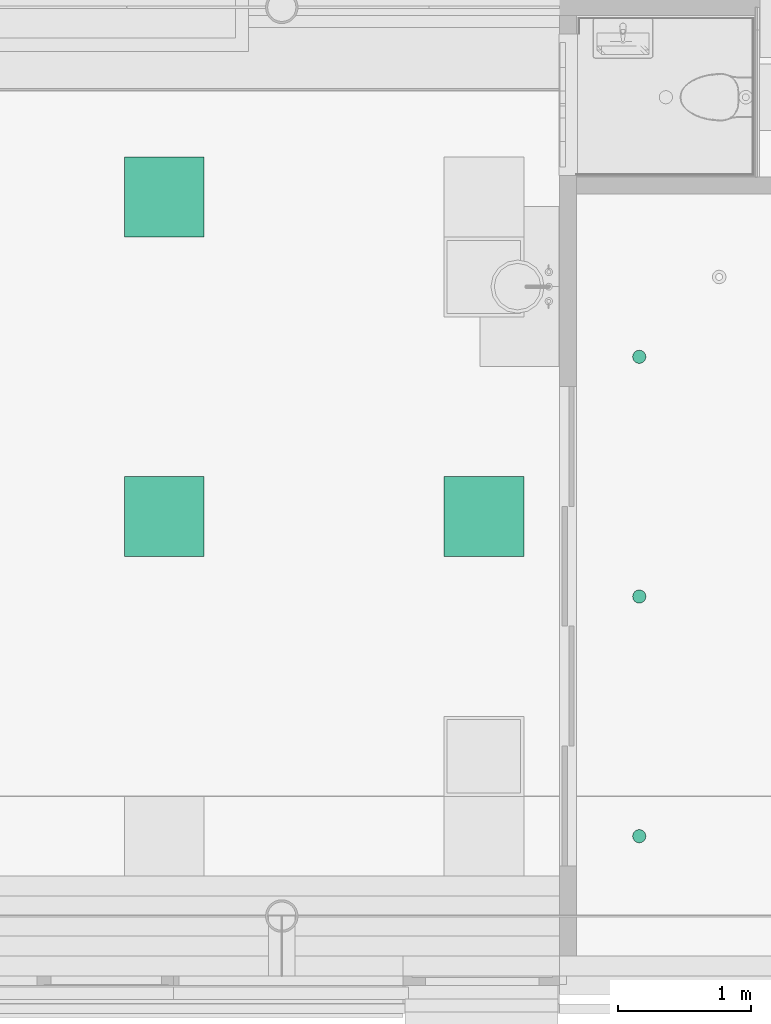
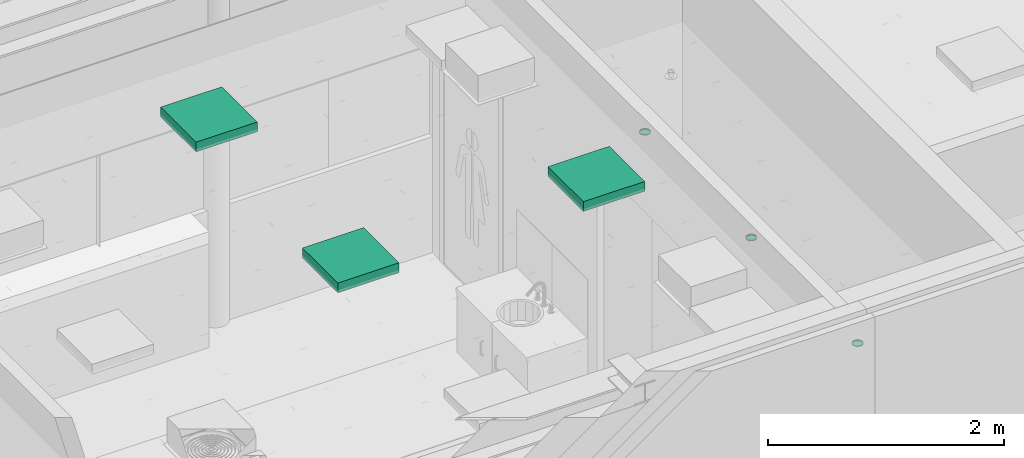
# One storey, part 205 of 347: 6 flow terminals.
"""IFC2X3 building model written with IfcOpenShell, lengths in millimetres."""

from ifc_helpers import new_model, entity, si_unit, converted_unit, derived_unit, money_unit, direction, frame, origin_with_axes, place, context, subcontext, project, spatial, open_shell, faceted_brep, surface_model, source, transform, mapped, type_object, type_shapes, element, save


model = new_model("IFC2X3")

# Units and contexts
model_context = context("Model", 3, precision=0.01, world=origin_with_axes(), true_north=direction((0.0, 1.0)))
plan_context = context("Plan", 3, precision=0.01, world=origin_with_axes(), true_north=direction((0.0, 1.0)))
body_context = subcontext(model_context, "Body", "Model", "MODEL_VIEW")
ifc_project = project(units=[si_unit("LENGTHUNIT", "METRE", prefix="MILLI"), si_unit("AREAUNIT", "SQUARE_METRE"), si_unit("VOLUMEUNIT", "CUBIC_METRE"), converted_unit("PLANEANGLEUNIT", "DEGREE", entity("IfcPlaneAngleMeasure", 0.0174532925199), si_unit("PLANEANGLEUNIT", "RADIAN"), dimensions=[0, 0, 0, 0, 0, 0, 0]), money_unit("EUR"), converted_unit("TIMEUNIT", "Year", entity("IfcTimeMeasure", 31556926.0), si_unit("TIMEUNIT", "SECOND"), dimensions=[0, 0, 1, 0, 0, 0, 0]), si_unit("MASSUNIT", "GRAM", prefix="KILO"), si_unit("THERMODYNAMICTEMPERATUREUNIT", "DEGREE_CELSIUS"), si_unit("LUMINOUSINTENSITYUNIT", "LUMEN"), si_unit("ENERGYUNIT", "JOULE", prefix="MEGA"), derived_unit("THERMALCONDUCTANCEUNIT", [(si_unit("POWERUNIT", "WATT"), 1), (si_unit("LENGTHUNIT", "METRE"), -1), (si_unit("THERMODYNAMICTEMPERATUREUNIT", "KELVIN"), -1)]), derived_unit("SPECIFICHEATCAPACITYUNIT", [(si_unit("ENERGYUNIT", "JOULE"), 1), (si_unit("MASSUNIT", "GRAM", prefix="KILO"), -1), (si_unit("THERMODYNAMICTEMPERATUREUNIT", "KELVIN"), -1)]), derived_unit("MASSDENSITYUNIT", [(si_unit("MASSUNIT", "GRAM", prefix="KILO"), 1), (si_unit("VOLUMEUNIT", "CUBIC_METRE"), -1)])], contexts=[model_context, plan_context])

# Site, building, storey
site_placement = place(None, origin_with_axes())
site = spatial("IfcSite", under=ifc_project, at=site_placement, Name="Site", CompositionType="ELEMENT")
building_placement = place(site_placement, origin_with_axes())
building = spatial("IfcBuilding", under=site, at=building_placement, Name="Naam gebouw", CompositionType="ELEMENT")
storey_placement = place(building_placement, origin_with_axes())
storey = spatial("IfcBuildingStorey", under=building, at=storey_placement, Name="begane grond", CompositionType="ELEMENT", Elevation=0.0)

# Flow terminals
lamp_type_1 = type_object("IfcLampType", Name="Spot plafond 01 25", PredefinedType="NOTDEFINED")
shared_shape_1 = source(origin_with_axes(), body_context, "Body", "SurfaceModel", [
    faceted_brep([(50.0, 0.0, -10.0), (46.1939766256, 19.1341716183, -10.0), (46.1939766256, 19.1341716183, 0.0), (50.0, 0.0, 0.0), (46.1939766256, -19.1341716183, -10.0), (35.3553390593, -35.3553390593, -10.0), (19.1341716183, -46.1939766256, -10.0), (0.0, -50.0, -10.0), (-19.1341716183, -46.1939766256, -10.0), (-35.3553390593, -35.3553390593, -10.0), (-46.1939766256, -19.1341716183, -10.0), (-50.0, 0.0, -10.0), (-46.1939766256, 19.1341716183, -10.0), (-35.3553390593, 35.3553390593, -10.0), (-19.1341716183, 46.1939766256, -10.0), (0.0, 50.0, -10.0), (19.1341716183, 46.1939766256, -10.0), (35.3553390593, 35.3553390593, -10.0), (40.0, 0.0, -10.0), (36.9551813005, 15.3073372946, -10.0), (28.2842712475, 28.2842712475, -10.0), (15.3073372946, 36.9551813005, -10.0), (0.0, 40.0, -10.0), (-15.3073372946, 36.9551813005, -10.0), (-28.2842712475, 28.2842712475, -10.0), (-36.9551813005, 15.3073372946, -10.0), (-40.0, 0.0, -10.0), (-36.9551813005, -15.3073372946, -10.0), (-28.2842712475, -28.2842712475, -10.0), (-15.3073372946, -36.9551813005, -10.0), (0.0, -40.0, -10.0), (15.3073372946, -36.9551813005, -10.0), (28.2842712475, -28.2842712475, -10.0), (36.9551813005, -15.3073372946, -10.0), (35.3553390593, 35.3553390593, 0.0), (19.1341716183, 46.1939766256, 0.0), (0.0, 50.0, 0.0), (-19.1341716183, 46.1939766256, 0.0), (-35.3553390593, 35.3553390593, 0.0), (-46.1939766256, 19.1341716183, 0.0), (-50.0, 0.0, 0.0), (-46.1939766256, -19.1341716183, 0.0), (-35.3553390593, -35.3553390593, 0.0), (-19.1341716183, -46.1939766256, 0.0), (0.0, -50.0, 0.0), (19.1341716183, -46.1939766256, 0.0), (35.3553390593, -35.3553390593, 0.0), (46.1939766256, -19.1341716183, 0.0), (40.0, 0.0, 0.0), (36.9551813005, -15.3073372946, 0.0), (28.2842712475, -28.2842712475, 0.0), (15.3073372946, -36.9551813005, 0.0), (0.0, -40.0, 0.0), (-15.3073372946, -36.9551813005, 0.0), (-28.2842712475, -28.2842712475, 0.0), (-36.9551813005, -15.3073372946, 0.0), (-40.0, 0.0, 0.0), (-36.9551813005, 15.3073372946, 0.0), (-28.2842712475, 28.2842712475, 0.0), (-15.3073372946, 36.9551813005, 0.0), (0.0, 40.0, 0.0), (15.3073372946, 36.9551813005, 0.0), (28.2842712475, 28.2842712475, 0.0), (36.9551813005, 15.3073372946, 0.0)], [[[0, 1, 2, 3]], [[0, 4, 5, 6, 7, 8, 9, 10, 11, 12, 13, 14, 15, 16, 17, 1], [18, 19, 20, 21, 22, 23, 24, 25, 26, 27, 28, 29, 30, 31, 32, 33]], [[1, 17, 34, 2]], [[3, 2, 34, 35, 36, 37, 38, 39, 40, 41, 42, 43, 44, 45, 46, 47], [48, 49, 50, 51, 52, 53, 54, 55, 56, 57, 58, 59, 60, 61, 62, 63]], [[4, 0, 3, 47]], [[5, 4, 47, 46]], [[6, 5, 46, 45]], [[7, 6, 45, 44]], [[8, 7, 44, 43]], [[9, 8, 43, 42]], [[10, 9, 42, 41]], [[11, 10, 41, 40]], [[12, 11, 40, 39]], [[13, 12, 39, 38]], [[14, 13, 38, 37]], [[15, 14, 37, 36]], [[16, 15, 36, 35]], [[17, 16, 35, 34]], [[19, 18, 48, 63]], [[20, 19, 63, 62]], [[21, 20, 62, 61]], [[22, 21, 61, 60]], [[23, 22, 60, 59]], [[24, 23, 59, 58]], [[25, 24, 58, 57]], [[26, 25, 57, 56]], [[27, 26, 56, 55]], [[28, 27, 55, 54]], [[29, 28, 54, 53]], [[30, 29, 53, 52]], [[31, 30, 52, 51]], [[32, 31, 51, 50]], [[33, 32, 50, 49]], [[18, 33, 49, 48]]]),
    surface_model("IfcShellBasedSurfaceModel", [(40.0, 0.0, -8.9), (36.9551813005, -15.3073372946, -8.9), (28.2842712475, -28.2842712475, -8.9), (15.3073372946, -36.9551813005, -8.9), (0.0, -40.0, -8.9), (-15.3073372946, -36.9551813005, -8.9), (-28.2842712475, -28.2842712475, -8.9), (-36.9551813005, -15.3073372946, -8.9), (-40.0, 0.0, -8.9), (-36.9551813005, 15.3073372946, -8.9), (-28.2842712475, 28.2842712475, -8.9), (-15.3073372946, 36.9551813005, -8.9), (0.0, 40.0, -8.9), (15.3073372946, 36.9551813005, -8.9), (28.2842712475, 28.2842712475, -8.9), (36.9551813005, 15.3073372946, -8.9)], [open_shell([[[0, 1, 2, 3, 4, 5, 6, 7, 8, 9, 10, 11, 12, 13, 14, 15]]])]),
])
type_shapes(lamp_type_1, [shared_shape_1])
for number, where, z_axis, x_axis, name in (
    (1, (34422.5, 5899.99997201, 2600.0), (0.0, 0.0, 1.0), (1.0, 0.0, 0.0), "63_Lamp-x"),
    (2, (34422.5, 7699.99997201, 2600.0), (0.0, 0.0, 1.0), (1.0, 0.0, 0.0), "63_Lamp-x"),
    (3, (34422.5, 9499.99997201, 2600.0), (0.0, 0.0, 1.0), (1.0, 0.0, 0.0), "63_Lamp-x"),
):
    element("IfcFlowTerminal", number, at=place(storey_placement, frame(where, z_axis=z_axis, x_axis=x_axis)), inside=storey, type_object=lamp_type_1, Name=name, ObjectType="Lamp", context=body_context, shape_type="MappedRepresentation", body=[
        mapped(shared_shape_1, transform((0.0, 0.0, 0.0))),
    ])
lamp_type_2 = type_object("IfcLampType", Name="TL plafond 25", PredefinedType="NOTDEFINED")
shared_shape_2 = source(origin_with_axes(), body_context, "Body", "SurfaceModel", [
    faceted_brep([(0.0, 0.0, -100.0), (600.0, 0.0, -100.0), (600.0, 0.0, 0.0), (0.0, 0.0, 0.0), (0.0, 600.0, -100.0), (600.0, 600.0, -100.0), (40.0, 40.0, -100.0), (560.0, 40.0, -100.0), (560.0, 560.0, -100.0), (40.0, 560.0, -100.0), (600.0, 600.0, 0.0), (0.0, 600.0, 0.0), (40.0, 40.0, 0.0), (40.0, 560.0, 0.0), (560.0, 560.0, 0.0), (560.0, 40.0, 0.0)], [[[0, 1, 2, 3]], [[0, 4, 5, 1], [6, 7, 8, 9]], [[1, 5, 10, 2]], [[3, 2, 10, 11], [12, 13, 14, 15]], [[4, 0, 3, 11]], [[5, 4, 11, 10]], [[7, 6, 12, 15]], [[8, 7, 15, 14]], [[9, 8, 14, 13]], [[6, 9, 13, 12]]]),
    faceted_brep([(40.0, 40.0, -16.3333333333), (560.0, 40.0, -16.3333333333), (560.0, 40.0, 0.0), (40.0, 40.0, 0.0), (40.0, 560.0, -16.3333333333), (560.0, 560.0, -16.3333333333), (560.0, 560.0, 0.0), (40.0, 560.0, 0.0)], [[[0, 1, 2, 3]], [[0, 4, 5, 1]], [[1, 5, 6, 2]], [[3, 2, 6, 7]], [[4, 0, 3, 7]], [[5, 4, 7, 6]]]),
    surface_model("IfcShellBasedSurfaceModel", [(559.0, 41.0, -100.0), (40.0, 41.0, -100.0), (40.0, 559.0, -100.0), (559.0, 559.0, -100.0)], [open_shell([[[0, 1, 2, 3]]])]),
    faceted_brep([(40.0, 40.0, -100.0), (560.0, 40.0, -100.0), (560.0, 40.0, -60.0), (40.0, 40.0, -60.0), (40.0, 560.0, -100.0), (560.0, 560.0, -100.0), (41.0, 41.0, -100.0), (559.0, 41.0, -100.0), (559.0, 559.0, -100.0), (41.0, 559.0, -100.0), (560.0, 560.0, -60.0), (40.0, 560.0, -60.0), (41.0, 41.0, -60.0), (41.0, 559.0, -60.0), (559.0, 559.0, -60.0), (559.0, 41.0, -60.0)], [[[0, 1, 2, 3]], [[0, 4, 5, 1], [6, 7, 8, 9]], [[1, 5, 10, 2]], [[3, 2, 10, 11], [12, 13, 14, 15]], [[4, 0, 3, 11]], [[5, 4, 11, 10]], [[7, 6, 12, 15]], [[8, 7, 15, 14]], [[9, 8, 14, 13]], [[6, 9, 13, 12]]]),
    faceted_brep([(40.0, 144.0, -48.3333333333), (40.0, 149.740251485, -47.191526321), (560.0, 149.740251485, -47.191526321), (560.0, 144.0, -48.3333333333), (40.0, 138.259748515, -47.191526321), (40.0, 133.393398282, -43.9399350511), (40.0, 130.141807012, -39.0735848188), (40.0, 129.0, -33.3333333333), (40.0, 130.141807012, -27.5930818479), (40.0, 133.393398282, -22.7267316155), (40.0, 138.259748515, -19.4751403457), (40.0, 144.0, -18.3333333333), (40.0, 149.740251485, -19.4751403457), (40.0, 154.606601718, -22.7267316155), (40.0, 157.858192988, -27.5930818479), (40.0, 159.0, -33.3333333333), (40.0, 157.858192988, -39.0735848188), (40.0, 154.606601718, -43.9399350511), (40.0, 144.0, -46.3333333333), (40.0, 148.974884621, -45.343767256), (40.0, 153.192388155, -42.5257214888), (40.0, 156.010433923, -38.3082179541), (40.0, 157.0, -33.3333333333), (40.0, 156.010433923, -28.3584487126), (40.0, 153.192388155, -24.1409451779), (40.0, 148.974884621, -21.3228994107), (40.0, 144.0, -20.3333333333), (40.0, 139.025115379, -21.3228994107), (40.0, 134.807611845, -24.1409451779), (40.0, 131.989566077, -28.3584487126), (40.0, 131.0, -33.3333333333), (40.0, 131.989566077, -38.3082179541), (40.0, 134.807611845, -42.5257214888), (40.0, 139.025115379, -45.343767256), (560.0, 154.606601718, -43.9399350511), (560.0, 157.858192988, -39.0735848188), (560.0, 159.0, -33.3333333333), (560.0, 157.858192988, -27.5930818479), (560.0, 154.606601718, -22.7267316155), (560.0, 149.740251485, -19.4751403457), (560.0, 144.0, -18.3333333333), (560.0, 138.259748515, -19.4751403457), (560.0, 133.393398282, -22.7267316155), (560.0, 130.141807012, -27.5930818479), (560.0, 129.0, -33.3333333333), (560.0, 130.141807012, -39.0735848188), (560.0, 133.393398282, -43.9399350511), (560.0, 138.259748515, -47.191526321), (560.0, 144.0, -46.3333333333), (560.0, 139.025115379, -45.343767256), (560.0, 134.807611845, -42.5257214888), (560.0, 131.989566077, -38.3082179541), (560.0, 131.0, -33.3333333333), (560.0, 131.989566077, -28.3584487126), (560.0, 134.807611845, -24.1409451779), (560.0, 139.025115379, -21.3228994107), (560.0, 144.0, -20.3333333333), (560.0, 148.974884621, -21.3228994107), (560.0, 153.192388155, -24.1409451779), (560.0, 156.010433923, -28.3584487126), (560.0, 157.0, -33.3333333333), (560.0, 156.010433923, -38.3082179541), (560.0, 153.192388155, -42.5257214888), (560.0, 148.974884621, -45.343767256)], [[[0, 1, 2, 3]], [[0, 4, 5, 6, 7, 8, 9, 10, 11, 12, 13, 14, 15, 16, 17, 1], [18, 19, 20, 21, 22, 23, 24, 25, 26, 27, 28, 29, 30, 31, 32, 33]], [[1, 17, 34, 2]], [[3, 2, 34, 35, 36, 37, 38, 39, 40, 41, 42, 43, 44, 45, 46, 47], [48, 49, 50, 51, 52, 53, 54, 55, 56, 57, 58, 59, 60, 61, 62, 63]], [[4, 0, 3, 47]], [[5, 4, 47, 46]], [[6, 5, 46, 45]], [[7, 6, 45, 44]], [[8, 7, 44, 43]], [[9, 8, 43, 42]], [[10, 9, 42, 41]], [[11, 10, 41, 40]], [[12, 11, 40, 39]], [[13, 12, 39, 38]], [[14, 13, 38, 37]], [[15, 14, 37, 36]], [[16, 15, 36, 35]], [[17, 16, 35, 34]], [[19, 18, 48, 63]], [[20, 19, 63, 62]], [[21, 20, 62, 61]], [[22, 21, 61, 60]], [[23, 22, 60, 59]], [[24, 23, 59, 58]], [[25, 24, 58, 57]], [[26, 25, 57, 56]], [[27, 26, 56, 55]], [[28, 27, 55, 54]], [[29, 28, 54, 53]], [[30, 29, 53, 52]], [[31, 30, 52, 51]], [[32, 31, 51, 50]], [[33, 32, 50, 49]], [[18, 33, 49, 48]]]),
    faceted_brep([(40.0, 248.0, -48.3333333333), (40.0, 253.740251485, -47.191526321), (560.0, 253.740251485, -47.191526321), (560.0, 248.0, -48.3333333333), (40.0, 242.259748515, -47.191526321), (40.0, 237.393398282, -43.9399350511), (40.0, 234.141807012, -39.0735848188), (40.0, 233.0, -33.3333333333), (40.0, 234.141807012, -27.5930818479), (40.0, 237.393398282, -22.7267316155), (40.0, 242.259748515, -19.4751403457), (40.0, 248.0, -18.3333333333), (40.0, 253.740251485, -19.4751403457), (40.0, 258.606601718, -22.7267316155), (40.0, 261.858192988, -27.5930818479), (40.0, 263.0, -33.3333333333), (40.0, 261.858192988, -39.0735848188), (40.0, 258.606601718, -43.9399350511), (40.0, 248.0, -46.3333333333), (40.0, 252.974884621, -45.343767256), (40.0, 257.192388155, -42.5257214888), (40.0, 260.010433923, -38.3082179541), (40.0, 261.0, -33.3333333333), (40.0, 260.010433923, -28.3584487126), (40.0, 257.192388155, -24.1409451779), (40.0, 252.974884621, -21.3228994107), (40.0, 248.0, -20.3333333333), (40.0, 243.025115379, -21.3228994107), (40.0, 238.807611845, -24.1409451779), (40.0, 235.989566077, -28.3584487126), (40.0, 235.0, -33.3333333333), (40.0, 235.989566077, -38.3082179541), (40.0, 238.807611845, -42.5257214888), (40.0, 243.025115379, -45.343767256), (560.0, 258.606601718, -43.9399350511), (560.0, 261.858192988, -39.0735848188), (560.0, 263.0, -33.3333333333), (560.0, 261.858192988, -27.5930818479), (560.0, 258.606601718, -22.7267316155), (560.0, 253.740251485, -19.4751403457), (560.0, 248.0, -18.3333333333), (560.0, 242.259748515, -19.4751403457), (560.0, 237.393398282, -22.7267316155), (560.0, 234.141807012, -27.5930818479), (560.0, 233.0, -33.3333333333), (560.0, 234.141807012, -39.0735848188), (560.0, 237.393398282, -43.9399350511), (560.0, 242.259748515, -47.191526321), (560.0, 248.0, -46.3333333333), (560.0, 243.025115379, -45.343767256), (560.0, 238.807611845, -42.5257214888), (560.0, 235.989566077, -38.3082179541), (560.0, 235.0, -33.3333333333), (560.0, 235.989566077, -28.3584487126), (560.0, 238.807611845, -24.1409451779), (560.0, 243.025115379, -21.3228994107), (560.0, 248.0, -20.3333333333), (560.0, 252.974884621, -21.3228994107), (560.0, 257.192388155, -24.1409451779), (560.0, 260.010433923, -28.3584487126), (560.0, 261.0, -33.3333333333), (560.0, 260.010433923, -38.3082179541), (560.0, 257.192388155, -42.5257214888), (560.0, 252.974884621, -45.343767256)], [[[0, 1, 2, 3]], [[0, 4, 5, 6, 7, 8, 9, 10, 11, 12, 13, 14, 15, 16, 17, 1], [18, 19, 20, 21, 22, 23, 24, 25, 26, 27, 28, 29, 30, 31, 32, 33]], [[1, 17, 34, 2]], [[3, 2, 34, 35, 36, 37, 38, 39, 40, 41, 42, 43, 44, 45, 46, 47], [48, 49, 50, 51, 52, 53, 54, 55, 56, 57, 58, 59, 60, 61, 62, 63]], [[4, 0, 3, 47]], [[5, 4, 47, 46]], [[6, 5, 46, 45]], [[7, 6, 45, 44]], [[8, 7, 44, 43]], [[9, 8, 43, 42]], [[10, 9, 42, 41]], [[11, 10, 41, 40]], [[12, 11, 40, 39]], [[13, 12, 39, 38]], [[14, 13, 38, 37]], [[15, 14, 37, 36]], [[16, 15, 36, 35]], [[17, 16, 35, 34]], [[19, 18, 48, 63]], [[20, 19, 63, 62]], [[21, 20, 62, 61]], [[22, 21, 61, 60]], [[23, 22, 60, 59]], [[24, 23, 59, 58]], [[25, 24, 58, 57]], [[26, 25, 57, 56]], [[27, 26, 56, 55]], [[28, 27, 55, 54]], [[29, 28, 54, 53]], [[30, 29, 53, 52]], [[31, 30, 52, 51]], [[32, 31, 51, 50]], [[33, 32, 50, 49]], [[18, 33, 49, 48]]]),
    faceted_brep([(40.0, 352.0, -48.3333333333), (40.0, 357.740251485, -47.191526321), (560.0, 357.740251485, -47.191526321), (560.0, 352.0, -48.3333333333), (40.0, 346.259748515, -47.191526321), (40.0, 341.393398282, -43.9399350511), (40.0, 338.141807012, -39.0735848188), (40.0, 337.0, -33.3333333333), (40.0, 338.141807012, -27.5930818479), (40.0, 341.393398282, -22.7267316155), (40.0, 346.259748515, -19.4751403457), (40.0, 352.0, -18.3333333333), (40.0, 357.740251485, -19.4751403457), (40.0, 362.606601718, -22.7267316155), (40.0, 365.858192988, -27.5930818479), (40.0, 367.0, -33.3333333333), (40.0, 365.858192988, -39.0735848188), (40.0, 362.606601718, -43.9399350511), (40.0, 352.0, -46.3333333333), (40.0, 356.974884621, -45.343767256), (40.0, 361.192388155, -42.5257214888), (40.0, 364.010433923, -38.3082179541), (40.0, 365.0, -33.3333333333), (40.0, 364.010433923, -28.3584487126), (40.0, 361.192388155, -24.1409451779), (40.0, 356.974884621, -21.3228994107), (40.0, 352.0, -20.3333333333), (40.0, 347.025115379, -21.3228994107), (40.0, 342.807611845, -24.1409451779), (40.0, 339.989566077, -28.3584487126), (40.0, 339.0, -33.3333333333), (40.0, 339.989566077, -38.3082179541), (40.0, 342.807611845, -42.5257214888), (40.0, 347.025115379, -45.343767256), (560.0, 362.606601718, -43.9399350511), (560.0, 365.858192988, -39.0735848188), (560.0, 367.0, -33.3333333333), (560.0, 365.858192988, -27.5930818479), (560.0, 362.606601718, -22.7267316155), (560.0, 357.740251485, -19.4751403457), (560.0, 352.0, -18.3333333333), (560.0, 346.259748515, -19.4751403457), (560.0, 341.393398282, -22.7267316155), (560.0, 338.141807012, -27.5930818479), (560.0, 337.0, -33.3333333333), (560.0, 338.141807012, -39.0735848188), (560.0, 341.393398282, -43.9399350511), (560.0, 346.259748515, -47.191526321), (560.0, 352.0, -46.3333333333), (560.0, 347.025115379, -45.343767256), (560.0, 342.807611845, -42.5257214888), (560.0, 339.989566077, -38.3082179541), (560.0, 339.0, -33.3333333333), (560.0, 339.989566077, -28.3584487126), (560.0, 342.807611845, -24.1409451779), (560.0, 347.025115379, -21.3228994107), (560.0, 352.0, -20.3333333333), (560.0, 356.974884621, -21.3228994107), (560.0, 361.192388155, -24.1409451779), (560.0, 364.010433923, -28.3584487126), (560.0, 365.0, -33.3333333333), (560.0, 364.010433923, -38.3082179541), (560.0, 361.192388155, -42.5257214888), (560.0, 356.974884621, -45.343767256)], [[[0, 1, 2, 3]], [[0, 4, 5, 6, 7, 8, 9, 10, 11, 12, 13, 14, 15, 16, 17, 1], [18, 19, 20, 21, 22, 23, 24, 25, 26, 27, 28, 29, 30, 31, 32, 33]], [[1, 17, 34, 2]], [[3, 2, 34, 35, 36, 37, 38, 39, 40, 41, 42, 43, 44, 45, 46, 47], [48, 49, 50, 51, 52, 53, 54, 55, 56, 57, 58, 59, 60, 61, 62, 63]], [[4, 0, 3, 47]], [[5, 4, 47, 46]], [[6, 5, 46, 45]], [[7, 6, 45, 44]], [[8, 7, 44, 43]], [[9, 8, 43, 42]], [[10, 9, 42, 41]], [[11, 10, 41, 40]], [[12, 11, 40, 39]], [[13, 12, 39, 38]], [[14, 13, 38, 37]], [[15, 14, 37, 36]], [[16, 15, 36, 35]], [[17, 16, 35, 34]], [[19, 18, 48, 63]], [[20, 19, 63, 62]], [[21, 20, 62, 61]], [[22, 21, 61, 60]], [[23, 22, 60, 59]], [[24, 23, 59, 58]], [[25, 24, 58, 57]], [[26, 25, 57, 56]], [[27, 26, 56, 55]], [[28, 27, 55, 54]], [[29, 28, 54, 53]], [[30, 29, 53, 52]], [[31, 30, 52, 51]], [[32, 31, 51, 50]], [[33, 32, 50, 49]], [[18, 33, 49, 48]]]),
    faceted_brep([(40.0, 456.0, -48.3333333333), (40.0, 461.740251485, -47.191526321), (560.0, 461.740251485, -47.191526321), (560.0, 456.0, -48.3333333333), (40.0, 450.259748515, -47.191526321), (40.0, 445.393398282, -43.9399350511), (40.0, 442.141807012, -39.0735848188), (40.0, 441.0, -33.3333333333), (40.0, 442.141807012, -27.5930818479), (40.0, 445.393398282, -22.7267316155), (40.0, 450.259748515, -19.4751403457), (40.0, 456.0, -18.3333333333), (40.0, 461.740251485, -19.4751403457), (40.0, 466.606601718, -22.7267316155), (40.0, 469.858192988, -27.5930818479), (40.0, 471.0, -33.3333333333), (40.0, 469.858192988, -39.0735848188), (40.0, 466.606601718, -43.9399350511), (40.0, 456.0, -46.3333333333), (40.0, 460.974884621, -45.343767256), (40.0, 465.192388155, -42.5257214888), (40.0, 468.010433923, -38.3082179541), (40.0, 469.0, -33.3333333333), (40.0, 468.010433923, -28.3584487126), (40.0, 465.192388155, -24.1409451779), (40.0, 460.974884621, -21.3228994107), (40.0, 456.0, -20.3333333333), (40.0, 451.025115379, -21.3228994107), (40.0, 446.807611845, -24.1409451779), (40.0, 443.989566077, -28.3584487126), (40.0, 443.0, -33.3333333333), (40.0, 443.989566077, -38.3082179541), (40.0, 446.807611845, -42.5257214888), (40.0, 451.025115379, -45.343767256), (560.0, 466.606601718, -43.9399350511), (560.0, 469.858192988, -39.0735848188), (560.0, 471.0, -33.3333333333), (560.0, 469.858192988, -27.5930818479), (560.0, 466.606601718, -22.7267316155), (560.0, 461.740251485, -19.4751403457), (560.0, 456.0, -18.3333333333), (560.0, 450.259748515, -19.4751403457), (560.0, 445.393398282, -22.7267316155), (560.0, 442.141807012, -27.5930818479), (560.0, 441.0, -33.3333333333), (560.0, 442.141807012, -39.0735848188), (560.0, 445.393398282, -43.9399350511), (560.0, 450.259748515, -47.191526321), (560.0, 456.0, -46.3333333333), (560.0, 451.025115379, -45.343767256), (560.0, 446.807611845, -42.5257214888), (560.0, 443.989566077, -38.3082179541), (560.0, 443.0, -33.3333333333), (560.0, 443.989566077, -28.3584487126), (560.0, 446.807611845, -24.1409451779), (560.0, 451.025115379, -21.3228994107), (560.0, 456.0, -20.3333333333), (560.0, 460.974884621, -21.3228994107), (560.0, 465.192388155, -24.1409451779), (560.0, 468.010433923, -28.3584487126), (560.0, 469.0, -33.3333333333), (560.0, 468.010433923, -38.3082179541), (560.0, 465.192388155, -42.5257214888), (560.0, 460.974884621, -45.343767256)], [[[0, 1, 2, 3]], [[0, 4, 5, 6, 7, 8, 9, 10, 11, 12, 13, 14, 15, 16, 17, 1], [18, 19, 20, 21, 22, 23, 24, 25, 26, 27, 28, 29, 30, 31, 32, 33]], [[1, 17, 34, 2]], [[3, 2, 34, 35, 36, 37, 38, 39, 40, 41, 42, 43, 44, 45, 46, 47], [48, 49, 50, 51, 52, 53, 54, 55, 56, 57, 58, 59, 60, 61, 62, 63]], [[4, 0, 3, 47]], [[5, 4, 47, 46]], [[6, 5, 46, 45]], [[7, 6, 45, 44]], [[8, 7, 44, 43]], [[9, 8, 43, 42]], [[10, 9, 42, 41]], [[11, 10, 41, 40]], [[12, 11, 40, 39]], [[13, 12, 39, 38]], [[14, 13, 38, 37]], [[15, 14, 37, 36]], [[16, 15, 36, 35]], [[17, 16, 35, 34]], [[19, 18, 48, 63]], [[20, 19, 63, 62]], [[21, 20, 62, 61]], [[22, 21, 61, 60]], [[23, 22, 60, 59]], [[24, 23, 59, 58]], [[25, 24, 58, 57]], [[26, 25, 57, 56]], [[27, 26, 56, 55]], [[28, 27, 55, 54]], [[29, 28, 54, 53]], [[30, 29, 53, 52]], [[31, 30, 52, 51]], [[32, 31, 51, 50]], [[33, 32, 50, 49]], [[18, 33, 49, 48]]]),
])
type_shapes(lamp_type_2, [shared_shape_2])
for number, where, z_axis, x_axis, name in (
    (4, (30555.0, 7999.99997201, 3295.0), (0.0, 0.0, 1.0), (1.0, 0.0, 0.0), "63_Lamp-x"),
    (5, (30555.0, 10399.999972, 3295.0), (0.0, 0.0, 1.0), (1.0, 0.0, 0.0), "63_Lamp-x"),
    (6, (32955.0, 7999.99997201, 3295.0), (0.0, 0.0, 1.0), (1.0, 0.0, 0.0), "63_Lamp-x"),
):
    element("IfcFlowTerminal", number, at=place(storey_placement, frame(where, z_axis=z_axis, x_axis=x_axis)), inside=storey, type_object=lamp_type_2, Name=name, ObjectType="Lamp", context=body_context, shape_type="MappedRepresentation", body=[
        mapped(shared_shape_2, transform((0.0, 0.0, 0.0))),
    ])

save(model, "model.ifc")
